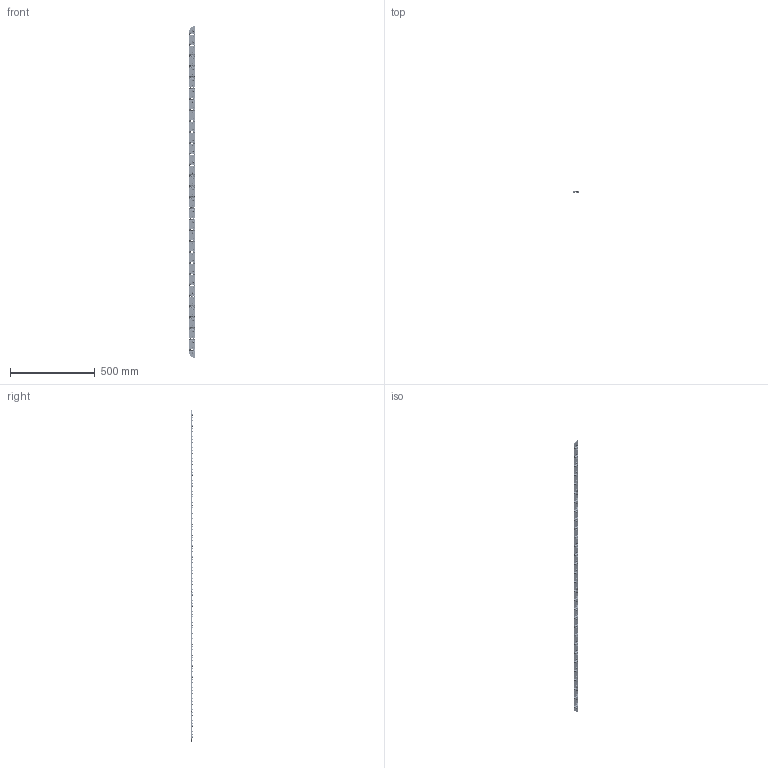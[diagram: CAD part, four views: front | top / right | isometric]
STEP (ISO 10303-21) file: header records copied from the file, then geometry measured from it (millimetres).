
FILE_DESCRIPTION (( 'STEP AP214' ), '1' );
FILE_NAME ('IDD-008-1.1.0_Kette.STEP', '2021-08-18T14:55:37', ( '' ), ( '' ), 'SwSTEP 2.0', 'SolidWorks 2018', '' );
FILE_SCHEMA (( 'AUTOMOTIVE_DESIGN' ));
Length unit declared in the file: millimetre
Products named in the file (5): IDD-008-1.1.0-004_Kette_Stift; IDD-008-1.1.0_Kette; IDD-008-1.1.0-003_Kette_Endstück_2; IDD-008-1.1.0-002_Kette_Endstück_1; IDD-008-1.1.0-001_Kettenglied
Assembly tree (61 placements, depth 2):
  IDD-008-1.1.0_Kette
    IDD-008-1.1.0-001_Kettenglied  x29
    IDD-008-1.1.0-002_Kette_Endstück_1
    IDD-008-1.1.0-003_Kette_Endstück_2
    IDD-008-1.1.0-004_Kette_Stift  x30
Bounding box: 30 x 12.65 x 1962.4 mm (x, y, z)
Volume: 324128.6 mm3; surface area: 211025.5 mm2
Topology: 61 solids, 61 shells, 11768 faces, 28815 edges, 16433 vertices
Faces by surface type: bspline 5378, cylinder 3893, plane 1098, torus 960, sphere 259, cone 180
Entity records: 46626 total; most frequent: CARTESIAN_POINT 29482, ORIENTED_EDGE 4106, DIRECTION 2810, EDGE_CURVE 2053, VERTEX_POINT 1197, AXIS2_PLACEMENT_3D 1179, EDGE_LOOP 900, ADVANCED_FACE 872
